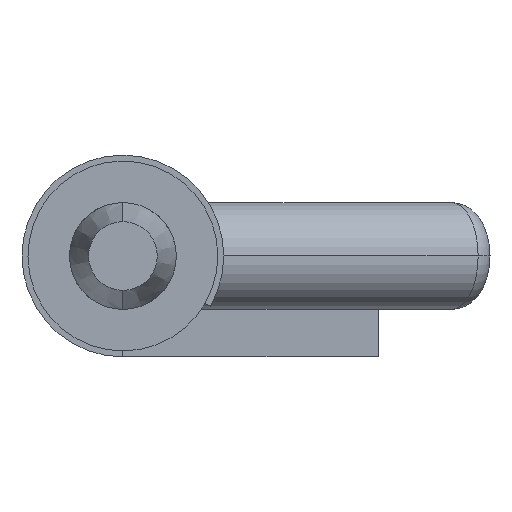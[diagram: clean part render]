
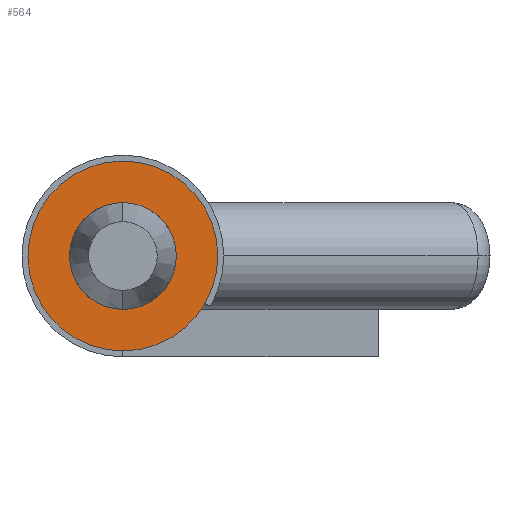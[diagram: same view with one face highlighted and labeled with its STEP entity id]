
A CAD part, front view. The second image highlights one B-rep face of the part: STEP entity #564.
In plain terms, the highlighted planar face has unit normal (0, -1, 0).
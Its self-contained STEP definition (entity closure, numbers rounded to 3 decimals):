
#378 = VERTEX_POINT ( 'NONE', #1587 ) ;
#383 = EDGE_CURVE ( 'NONE', #434, #433, #1517, .T. ) ;
#388 = EDGE_CURVE ( 'NONE', #440, #378, #1628, .T. ) ;
#433 = VERTEX_POINT ( 'NONE', #1752 ) ;
#434 = VERTEX_POINT ( 'NONE', #1751 ) ;
#440 = VERTEX_POINT ( 'NONE', #1651 ) ;
#481 = EDGE_CURVE ( 'NONE', #433, #434, #1853, .T. ) ;
#562 = EDGE_LOOP ( 'NONE', ( #622, #621 ) ) ;
#564 = ADVANCED_FACE ( 'NONE', ( #1953, #1845 ), #1961, .F. ) ;
#614 = ORIENTED_EDGE ( 'NONE', *, *, #481, .T. ) ;
#616 = EDGE_CURVE ( 'NONE', #378, #440, #2244, .T. ) ;
#618 = ORIENTED_EDGE ( 'NONE', *, *, #383, .T. ) ;
#619 = EDGE_LOOP ( 'NONE', ( #618, #614 ) ) ;
#621 = ORIENTED_EDGE ( 'NONE', *, *, #388, .F. ) ;
#622 = ORIENTED_EDGE ( 'NONE', *, *, #616, .F. ) ;
#1512 = CARTESIAN_POINT ( 'NONE',  ( 0., 0., 0. ) ) ;
#1517 = CIRCLE ( 'NONE', #1562, 2.25 ) ;
#1558 = CARTESIAN_POINT ( 'NONE',  ( 0., 0., 0. ) ) ;
#1560 = DIRECTION ( 'NONE',  ( 0., 0., 1. ) ) ;
#1561 = DIRECTION ( 'NONE',  ( 0., 1., 0. ) ) ;
#1562 = AXIS2_PLACEMENT_3D ( 'NONE', #1512, #1561, #1560 ) ;
#1587 = CARTESIAN_POINT ( 'NONE',  ( 0., 0., -4. ) ) ;
#1625 = DIRECTION ( 'NONE',  ( 0., 0., 1. ) ) ;
#1626 = DIRECTION ( 'NONE',  ( 0., 1., 0. ) ) ;
#1627 = AXIS2_PLACEMENT_3D ( 'NONE', #1558, #1626, #1625 ) ;
#1628 = CIRCLE ( 'NONE', #1627, 4. ) ;
#1651 = CARTESIAN_POINT ( 'NONE',  ( 0., 0., 4. ) ) ;
#1751 = CARTESIAN_POINT ( 'NONE',  ( 0., 0., -2.25 ) ) ;
#1752 = CARTESIAN_POINT ( 'NONE',  ( 0., 0., 2.25 ) ) ;
#1789 = DIRECTION ( 'NONE',  ( 0., 0., 1. ) ) ;
#1812 = DIRECTION ( 'NONE',  ( 0., 0., 1. ) ) ;
#1813 = DIRECTION ( 'NONE',  ( 0., 1., 0. ) ) ;
#1814 = AXIS2_PLACEMENT_3D ( 'NONE', #1815, #1813, #1812 ) ;
#1815 = CARTESIAN_POINT ( 'NONE',  ( 0., 0., 0. ) ) ;
#1845 = FACE_BOUND ( 'NONE', #619, .T. ) ;
#1853 = CIRCLE ( 'NONE', #1814, 2.25 ) ;
#1950 = CARTESIAN_POINT ( 'NONE',  ( 0., 0., 0. ) ) ;
#1953 = FACE_OUTER_BOUND ( 'NONE', #562, .T. ) ;
#1958 = DIRECTION ( 'NONE',  ( 0., 1., 0. ) ) ;
#1961 = PLANE ( 'NONE',  #1969 ) ;
#1969 = AXIS2_PLACEMENT_3D ( 'NONE', #1950, #1958, #1789 ) ;
#2075 = AXIS2_PLACEMENT_3D ( 'NONE', #2110, #2109, #2108 ) ;
#2108 = DIRECTION ( 'NONE',  ( 0., 0., 1. ) ) ;
#2109 = DIRECTION ( 'NONE',  ( 0., 1., 0. ) ) ;
#2110 = CARTESIAN_POINT ( 'NONE',  ( 0., 0., 0. ) ) ;
#2244 = CIRCLE ( 'NONE', #2075, 4. ) ;
